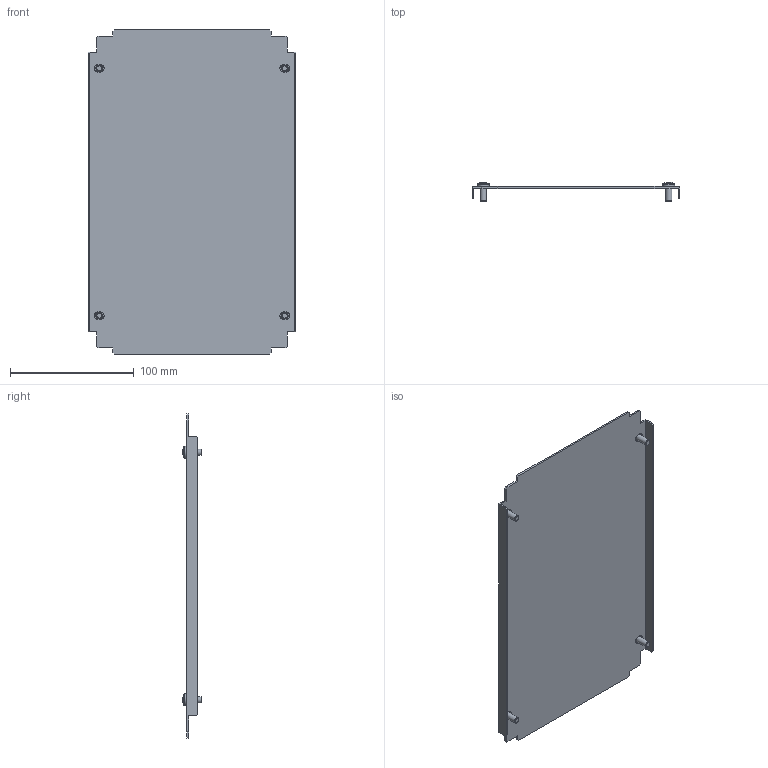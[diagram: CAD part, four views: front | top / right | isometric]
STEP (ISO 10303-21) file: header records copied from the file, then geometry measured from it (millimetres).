
FILE_DESCRIPTION (( 'STEP AP203' ), '1' );
FILE_NAME ('R5N1BP34.STEP', '2025-02-21T13:46:08', ( '' ), ( '' ), 'SwSTEP 2.0', 'SolidWorks 2022', '' );
FILE_SCHEMA (( 'CONFIG_CONTROL_DESIGN' ));
Length unit declared in the file: millimetre
Products named in the file (3): RB.1923.00.00.0; R5N1BP34; M5x12 DIN 7500 C Torx Zinc_stright
Assembly tree (5 placements, depth 2):
  R5N1BP34
    RB.1923.00.00.0
    M5x12 DIN 7500 C Torx Zinc_stright  x4
Bounding box: 168 x 15.56 x 262 mm (x, y, z)
Volume: 71408.6 mm3; surface area: 96111.7 mm2
Topology: 5 solids, 5 shells, 126 faces, 300 edges, 188 vertices
Faces by surface type: plane 86, cylinder 16, torus 8, cone 8, sphere 4, bspline 4
Full cylindrical faces by diameter (mm): 5 x4, 9.5 x4
Entity records: 2953 total; most frequent: CARTESIAN_POINT 624, ORIENTED_EDGE 400, DIRECTION 392, EDGE_CURVE 200, VECTOR 164, LINE 164, VERTEX_POINT 134, AXIS2_PLACEMENT_3D 114
